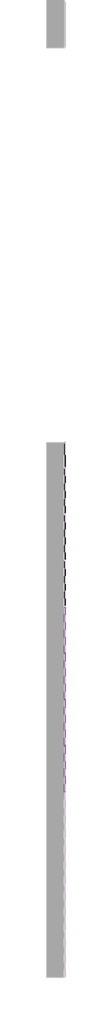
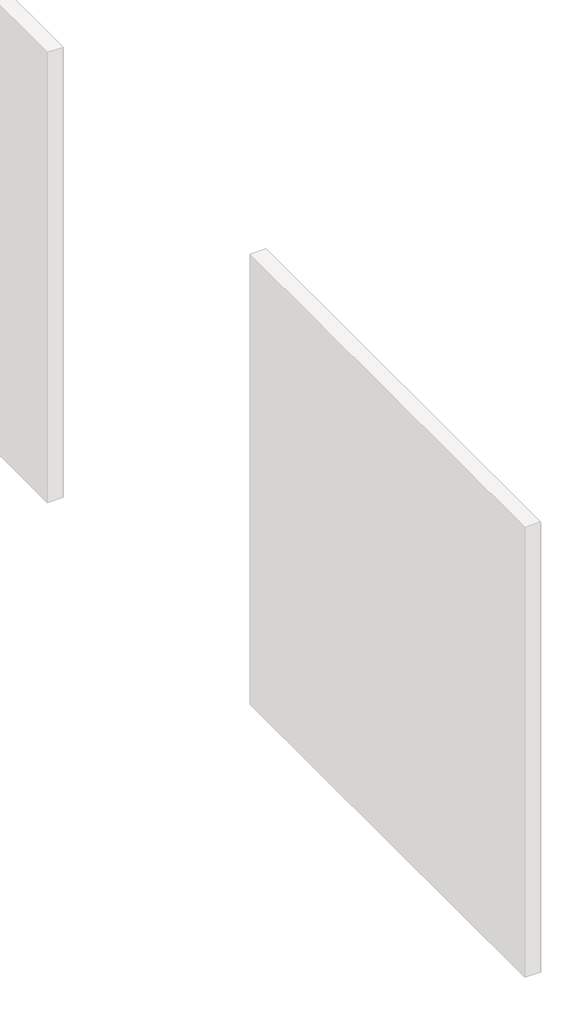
# One storey, part 35 of 45: 147 proxies.
"""IFC4 building model written with IfcOpenShell, lengths in millimetres."""

from ifc_helpers import new_model, si_unit, origin, place, context, project, spatial, transform, mapped, element, save
from components import generic_models_ab0f2c30, generic_models_8360c89e

model = new_model("IFC4")

# Units and contexts
model_context = context("Model", 3, world=origin())
ifc_project = project(units=[si_unit("LENGTHUNIT", "METRE", prefix="MILLI")], contexts=[model_context])

# Site, building, storey
site = spatial("IfcSite", under=ifc_project)
building = spatial("IfcBuilding", under=site)
storey = spatial("IfcBuildingStorey", under=building, Name="PORTOBELLO - SHOWROOM", Elevation=0.0)

# Proxies
placement = place(None, origin())
generic_models_shape = generic_models_ab0f2c30(model_context)
element("IfcBuildingElementProxy", 1, Name="PBSHOP - HORIZONTES TULUM 6,5X23 : TULUM AGAVE", ObjectType="PBSHOP - HORIZONTES TULUM 6,5X23 : TULUM AGAVE", at=placement, inside=storey, context=model_context, shape_type="MappedRepresentation", body=[
    mapped(generic_models_shape, transform((66511.8826867, 17058.0588567, 34.5), x_axis=(0.0, 0.0, 1.0), y_axis=(0.0, -1.0, 0.0), z_axis=(1.0, 0.0, 0.0))),
])
element("IfcBuildingElementProxy", 2, Name="PBSHOP - HORIZONTES TULUM 6,5X23 : TULUM AGAVE", ObjectType="PBSHOP - HORIZONTES TULUM 6,5X23 : TULUM AGAVE", at=placement, inside=storey, context=model_context, shape_type="MappedRepresentation", body=[
    mapped(generic_models_shape, transform((66511.8826867, 17292.0588567, 34.5), x_axis=(0.0, 0.0, 1.0), y_axis=(0.0, -1.0, 0.0), z_axis=(1.0, 0.0, 0.0))),
])
element("IfcBuildingElementProxy", 3, Name="PBSHOP - HORIZONTES TULUM 6,5X23 : TULUM AGAVE", ObjectType="PBSHOP - HORIZONTES TULUM 6,5X23 : TULUM AGAVE", at=placement, inside=storey, context=model_context, shape_type="MappedRepresentation", body=[
    mapped(generic_models_shape, transform((66511.8826867, 17526.0588567, 34.5), x_axis=(0.0, 0.0, 1.0), y_axis=(0.0, -1.0, 0.0), z_axis=(1.0, 0.0, 0.0))),
])
element("IfcBuildingElementProxy", 4, Name="PBSHOP - HORIZONTES TULUM 6,5X23 : TULUM AGAVE", ObjectType="PBSHOP - HORIZONTES TULUM 6,5X23 : TULUM AGAVE", at=placement, inside=storey, context=model_context, shape_type="MappedRepresentation", body=[
    mapped(generic_models_shape, transform((66511.8826867, 17058.0588567, 103.5), x_axis=(0.0, 0.0, 1.0), y_axis=(0.0, -1.0, 0.0), z_axis=(1.0, 0.0, 0.0))),
])
element("IfcBuildingElementProxy", 5, Name="PBSHOP - HORIZONTES TULUM 6,5X23 : TULUM AGAVE", ObjectType="PBSHOP - HORIZONTES TULUM 6,5X23 : TULUM AGAVE", at=placement, inside=storey, context=model_context, shape_type="MappedRepresentation", body=[
    mapped(generic_models_shape, transform((66511.8826867, 17292.0588567, 103.5), x_axis=(0.0, 0.0, 1.0), y_axis=(0.0, -1.0, 0.0), z_axis=(1.0, 0.0, 0.0))),
])
element("IfcBuildingElementProxy", 6, Name="PBSHOP - HORIZONTES TULUM 6,5X23 : TULUM AGAVE", ObjectType="PBSHOP - HORIZONTES TULUM 6,5X23 : TULUM AGAVE", at=placement, inside=storey, context=model_context, shape_type="MappedRepresentation", body=[
    mapped(generic_models_shape, transform((66511.8826867, 17526.0588567, 103.5), x_axis=(0.0, 0.0, 1.0), y_axis=(0.0, -1.0, 0.0), z_axis=(1.0, 0.0, 0.0))),
])
element("IfcBuildingElementProxy", 7, Name="PBSHOP - HORIZONTES TULUM 6,5X23 : TULUM AGAVE", ObjectType="PBSHOP - HORIZONTES TULUM 6,5X23 : TULUM AGAVE", at=placement, inside=storey, context=model_context, shape_type="MappedRepresentation", body=[
    mapped(generic_models_shape, transform((66511.8826867, 17058.0588567, 172.5), x_axis=(0.0, 0.0, 1.0), y_axis=(0.0, -1.0, 0.0), z_axis=(1.0, 0.0, 0.0))),
])
element("IfcBuildingElementProxy", 8, Name="PBSHOP - HORIZONTES TULUM 6,5X23 : TULUM AGAVE", ObjectType="PBSHOP - HORIZONTES TULUM 6,5X23 : TULUM AGAVE", at=placement, inside=storey, context=model_context, shape_type="MappedRepresentation", body=[
    mapped(generic_models_shape, transform((66511.8826867, 17292.0588567, 172.5), x_axis=(0.0, 0.0, 1.0), y_axis=(0.0, -1.0, 0.0), z_axis=(1.0, 0.0, 0.0))),
])
element("IfcBuildingElementProxy", 9, Name="PBSHOP - HORIZONTES TULUM 6,5X23 : TULUM AGAVE", ObjectType="PBSHOP - HORIZONTES TULUM 6,5X23 : TULUM AGAVE", at=placement, inside=storey, context=model_context, shape_type="MappedRepresentation", body=[
    mapped(generic_models_shape, transform((66511.8826867, 17526.0588567, 172.5), x_axis=(0.0, 0.0, 1.0), y_axis=(0.0, -1.0, 0.0), z_axis=(1.0, 0.0, 0.0))),
])
element("IfcBuildingElementProxy", 10, Name="PBSHOP - HORIZONTES TULUM 6,5X23 : TULUM AGAVE", ObjectType="PBSHOP - HORIZONTES TULUM 6,5X23 : TULUM AGAVE", at=placement, inside=storey, context=model_context, shape_type="MappedRepresentation", body=[
    mapped(generic_models_shape, transform((66511.8826867, 17058.0588567, 241.5), x_axis=(0.0, 0.0, 1.0), y_axis=(0.0, -1.0, 0.0), z_axis=(1.0, 0.0, 0.0))),
])
element("IfcBuildingElementProxy", 11, Name="PBSHOP - HORIZONTES TULUM 6,5X23 : TULUM AGAVE", ObjectType="PBSHOP - HORIZONTES TULUM 6,5X23 : TULUM AGAVE", at=placement, inside=storey, context=model_context, shape_type="MappedRepresentation", body=[
    mapped(generic_models_shape, transform((66511.8826867, 17292.0588567, 241.5), x_axis=(0.0, 0.0, 1.0), y_axis=(0.0, -1.0, 0.0), z_axis=(1.0, 0.0, 0.0))),
])
element("IfcBuildingElementProxy", 12, Name="PBSHOP - HORIZONTES TULUM 6,5X23 : TULUM AGAVE", ObjectType="PBSHOP - HORIZONTES TULUM 6,5X23 : TULUM AGAVE", at=placement, inside=storey, context=model_context, shape_type="MappedRepresentation", body=[
    mapped(generic_models_shape, transform((66511.8826867, 17526.0588567, 241.5), x_axis=(0.0, 0.0, 1.0), y_axis=(0.0, -1.0, 0.0), z_axis=(1.0, 0.0, 0.0))),
])
element("IfcBuildingElementProxy", 13, Name="PBSHOP - HORIZONTES TULUM 6,5X23 : TULUM AGAVE", ObjectType="PBSHOP - HORIZONTES TULUM 6,5X23 : TULUM AGAVE", at=placement, inside=storey, context=model_context, shape_type="MappedRepresentation", body=[
    mapped(generic_models_shape, transform((66511.8826867, 17058.0588567, 310.5), x_axis=(0.0, 0.0, 1.0), y_axis=(0.0, -1.0, 0.0), z_axis=(1.0, 0.0, 0.0))),
])
element("IfcBuildingElementProxy", 14, Name="PBSHOP - HORIZONTES TULUM 6,5X23 : TULUM AGAVE", ObjectType="PBSHOP - HORIZONTES TULUM 6,5X23 : TULUM AGAVE", at=placement, inside=storey, context=model_context, shape_type="MappedRepresentation", body=[
    mapped(generic_models_shape, transform((66511.8826867, 17292.0588567, 310.5), x_axis=(0.0, 0.0, 1.0), y_axis=(0.0, -1.0, 0.0), z_axis=(1.0, 0.0, 0.0))),
])
element("IfcBuildingElementProxy", 15, Name="PBSHOP - HORIZONTES TULUM 6,5X23 : TULUM AGAVE", ObjectType="PBSHOP - HORIZONTES TULUM 6,5X23 : TULUM AGAVE", at=placement, inside=storey, context=model_context, shape_type="MappedRepresentation", body=[
    mapped(generic_models_shape, transform((66511.8826867, 17526.0588567, 310.5), x_axis=(0.0, 0.0, 1.0), y_axis=(0.0, -1.0, 0.0), z_axis=(1.0, 0.0, 0.0))),
])
element("IfcBuildingElementProxy", 16, Name="PBSHOP - HORIZONTES TULUM 6,5X23 : TULUM AGAVE", ObjectType="PBSHOP - HORIZONTES TULUM 6,5X23 : TULUM AGAVE", at=placement, inside=storey, context=model_context, shape_type="MappedRepresentation", body=[
    mapped(generic_models_shape, transform((66511.8826867, 17058.0588567, 379.5), x_axis=(0.0, 0.0, 1.0), y_axis=(0.0, -1.0, 0.0), z_axis=(1.0, 0.0, 0.0))),
])
element("IfcBuildingElementProxy", 17, Name="PBSHOP - HORIZONTES TULUM 6,5X23 : TULUM AGAVE", ObjectType="PBSHOP - HORIZONTES TULUM 6,5X23 : TULUM AGAVE", at=placement, inside=storey, context=model_context, shape_type="MappedRepresentation", body=[
    mapped(generic_models_shape, transform((66511.8826867, 17292.0588567, 379.5), x_axis=(0.0, 0.0, 1.0), y_axis=(0.0, -1.0, 0.0), z_axis=(1.0, 0.0, 0.0))),
])
element("IfcBuildingElementProxy", 18, Name="PBSHOP - HORIZONTES TULUM 6,5X23 : TULUM AGAVE", ObjectType="PBSHOP - HORIZONTES TULUM 6,5X23 : TULUM AGAVE", at=placement, inside=storey, context=model_context, shape_type="MappedRepresentation", body=[
    mapped(generic_models_shape, transform((66511.8826867, 17526.0588567, 379.5), x_axis=(0.0, 0.0, 1.0), y_axis=(0.0, -1.0, 0.0), z_axis=(1.0, 0.0, 0.0))),
])
element("IfcBuildingElementProxy", 19, Name="PBSHOP - HORIZONTES TULUM 6,5X23 : TULUM AGAVE", ObjectType="PBSHOP - HORIZONTES TULUM 6,5X23 : TULUM AGAVE", at=placement, inside=storey, context=model_context, shape_type="MappedRepresentation", body=[
    mapped(generic_models_shape, transform((66511.8826867, 17058.0588567, 448.5), x_axis=(0.0, 0.0, 1.0), y_axis=(0.0, -1.0, 0.0), z_axis=(1.0, 0.0, 0.0))),
])
element("IfcBuildingElementProxy", 20, Name="PBSHOP - HORIZONTES TULUM 6,5X23 : TULUM AGAVE", ObjectType="PBSHOP - HORIZONTES TULUM 6,5X23 : TULUM AGAVE", at=placement, inside=storey, context=model_context, shape_type="MappedRepresentation", body=[
    mapped(generic_models_shape, transform((66511.8826867, 17292.0588567, 448.5), x_axis=(0.0, 0.0, 1.0), y_axis=(0.0, -1.0, 0.0), z_axis=(1.0, 0.0, 0.0))),
])
element("IfcBuildingElementProxy", 21, Name="PBSHOP - HORIZONTES TULUM 6,5X23 : TULUM AGAVE", ObjectType="PBSHOP - HORIZONTES TULUM 6,5X23 : TULUM AGAVE", at=placement, inside=storey, context=model_context, shape_type="MappedRepresentation", body=[
    mapped(generic_models_shape, transform((66511.8826867, 17526.0588567, 448.5), x_axis=(0.0, 0.0, 1.0), y_axis=(0.0, -1.0, 0.0), z_axis=(1.0, 0.0, 0.0))),
])
element("IfcBuildingElementProxy", 22, Name="PBSHOP - HORIZONTES TULUM 6,5X23 : TULUM AGAVE", ObjectType="PBSHOP - HORIZONTES TULUM 6,5X23 : TULUM AGAVE", at=placement, inside=storey, context=model_context, shape_type="MappedRepresentation", body=[
    mapped(generic_models_shape, transform((66511.8826867, 17058.0588567, 517.5), x_axis=(0.0, 0.0, 1.0), y_axis=(0.0, -1.0, 0.0), z_axis=(1.0, 0.0, 0.0))),
])
element("IfcBuildingElementProxy", 23, Name="PBSHOP - HORIZONTES TULUM 6,5X23 : TULUM AGAVE", ObjectType="PBSHOP - HORIZONTES TULUM 6,5X23 : TULUM AGAVE", at=placement, inside=storey, context=model_context, shape_type="MappedRepresentation", body=[
    mapped(generic_models_shape, transform((66511.8826867, 17292.0588567, 517.5), x_axis=(0.0, 0.0, 1.0), y_axis=(0.0, -1.0, 0.0), z_axis=(1.0, 0.0, 0.0))),
])
element("IfcBuildingElementProxy", 24, Name="PBSHOP - HORIZONTES TULUM 6,5X23 : TULUM AGAVE", ObjectType="PBSHOP - HORIZONTES TULUM 6,5X23 : TULUM AGAVE", at=placement, inside=storey, context=model_context, shape_type="MappedRepresentation", body=[
    mapped(generic_models_shape, transform((66511.8826867, 17526.0588567, 517.5), x_axis=(0.0, 0.0, 1.0), y_axis=(0.0, -1.0, 0.0), z_axis=(1.0, 0.0, 0.0))),
])
element("IfcBuildingElementProxy", 25, Name="PBSHOP - HORIZONTES TULUM 6,5X23 : TULUM AGAVE", ObjectType="PBSHOP - HORIZONTES TULUM 6,5X23 : TULUM AGAVE", at=placement, inside=storey, context=model_context, shape_type="MappedRepresentation", body=[
    mapped(generic_models_shape, transform((66511.8826867, 17058.0588567, 586.5), x_axis=(0.0, 0.0, 1.0), y_axis=(0.0, -1.0, 0.0), z_axis=(1.0, 0.0, 0.0))),
])
element("IfcBuildingElementProxy", 26, Name="PBSHOP - HORIZONTES TULUM 6,5X23 : TULUM AGAVE", ObjectType="PBSHOP - HORIZONTES TULUM 6,5X23 : TULUM AGAVE", at=placement, inside=storey, context=model_context, shape_type="MappedRepresentation", body=[
    mapped(generic_models_shape, transform((66511.8826867, 17292.0588567, 586.5), x_axis=(0.0, 0.0, 1.0), y_axis=(0.0, -1.0, 0.0), z_axis=(1.0, 0.0, 0.0))),
])
element("IfcBuildingElementProxy", 27, Name="PBSHOP - HORIZONTES TULUM 6,5X23 : TULUM AGAVE", ObjectType="PBSHOP - HORIZONTES TULUM 6,5X23 : TULUM AGAVE", at=placement, inside=storey, context=model_context, shape_type="MappedRepresentation", body=[
    mapped(generic_models_shape, transform((66511.8826867, 17526.0588567, 586.5), x_axis=(0.0, 0.0, 1.0), y_axis=(0.0, -1.0, 0.0), z_axis=(1.0, 0.0, 0.0))),
])
element("IfcBuildingElementProxy", 28, Name="PBSHOP - HORIZONTES TULUM 6,5X23 : TULUM AGAVE", ObjectType="PBSHOP - HORIZONTES TULUM 6,5X23 : TULUM AGAVE", at=placement, inside=storey, context=model_context, shape_type="MappedRepresentation", body=[
    mapped(generic_models_shape, transform((66511.8826867, 17058.0588567, 655.5), x_axis=(0.0, 0.0, 1.0), y_axis=(0.0, -1.0, 0.0), z_axis=(1.0, 0.0, 0.0))),
])
element("IfcBuildingElementProxy", 29, Name="PBSHOP - HORIZONTES TULUM 6,5X23 : TULUM AGAVE", ObjectType="PBSHOP - HORIZONTES TULUM 6,5X23 : TULUM AGAVE", at=placement, inside=storey, context=model_context, shape_type="MappedRepresentation", body=[
    mapped(generic_models_shape, transform((66511.8826867, 17292.0588567, 655.5), x_axis=(0.0, 0.0, 1.0), y_axis=(0.0, -1.0, 0.0), z_axis=(1.0, 0.0, 0.0))),
])
element("IfcBuildingElementProxy", 30, Name="PBSHOP - HORIZONTES TULUM 6,5X23 : TULUM AGAVE", ObjectType="PBSHOP - HORIZONTES TULUM 6,5X23 : TULUM AGAVE", at=placement, inside=storey, context=model_context, shape_type="MappedRepresentation", body=[
    mapped(generic_models_shape, transform((66511.8826867, 17526.0588567, 655.5), x_axis=(0.0, 0.0, 1.0), y_axis=(0.0, -1.0, 0.0), z_axis=(1.0, 0.0, 0.0))),
])
element("IfcBuildingElementProxy", 31, Name="PBSHOP - HORIZONTES TULUM 6,5X23 : TULUM AGAVE", ObjectType="PBSHOP - HORIZONTES TULUM 6,5X23 : TULUM AGAVE", at=placement, inside=storey, context=model_context, shape_type="MappedRepresentation", body=[
    mapped(generic_models_shape, transform((66511.8826867, 17058.0588567, 724.5), x_axis=(0.0, 0.0, 1.0), y_axis=(0.0, -1.0, 0.0), z_axis=(1.0, 0.0, 0.0))),
])
element("IfcBuildingElementProxy", 32, Name="PBSHOP - HORIZONTES TULUM 6,5X23 : TULUM AGAVE", ObjectType="PBSHOP - HORIZONTES TULUM 6,5X23 : TULUM AGAVE", at=placement, inside=storey, context=model_context, shape_type="MappedRepresentation", body=[
    mapped(generic_models_shape, transform((66511.8826867, 17292.0588567, 724.5), x_axis=(0.0, 0.0, 1.0), y_axis=(0.0, -1.0, 0.0), z_axis=(1.0, 0.0, 0.0))),
])
element("IfcBuildingElementProxy", 33, Name="PBSHOP - HORIZONTES TULUM 6,5X23 : TULUM AGAVE", ObjectType="PBSHOP - HORIZONTES TULUM 6,5X23 : TULUM AGAVE", at=placement, inside=storey, context=model_context, shape_type="MappedRepresentation", body=[
    mapped(generic_models_shape, transform((66511.8826867, 17526.0588567, 724.5), x_axis=(0.0, 0.0, 1.0), y_axis=(0.0, -1.0, 0.0), z_axis=(1.0, 0.0, 0.0))),
])
element("IfcBuildingElementProxy", 34, Name="PBSHOP - HORIZONTES TULUM 6,5X23 : TULUM AGAVE", ObjectType="PBSHOP - HORIZONTES TULUM 6,5X23 : TULUM AGAVE", at=placement, inside=storey, context=model_context, shape_type="MappedRepresentation", body=[
    mapped(generic_models_shape, transform((66511.8826867, 17058.0588567, 793.5), x_axis=(0.0, 0.0, 1.0), y_axis=(0.0, -1.0, 0.0), z_axis=(1.0, 0.0, 0.0))),
])
element("IfcBuildingElementProxy", 35, Name="PBSHOP - HORIZONTES TULUM 6,5X23 : TULUM AGAVE", ObjectType="PBSHOP - HORIZONTES TULUM 6,5X23 : TULUM AGAVE", at=placement, inside=storey, context=model_context, shape_type="MappedRepresentation", body=[
    mapped(generic_models_shape, transform((66511.8826867, 17292.0588567, 793.5), x_axis=(0.0, 0.0, 1.0), y_axis=(0.0, -1.0, 0.0), z_axis=(1.0, 0.0, 0.0))),
])
element("IfcBuildingElementProxy", 36, Name="PBSHOP - HORIZONTES TULUM 6,5X23 : TULUM AGAVE", ObjectType="PBSHOP - HORIZONTES TULUM 6,5X23 : TULUM AGAVE", at=placement, inside=storey, context=model_context, shape_type="MappedRepresentation", body=[
    mapped(generic_models_shape, transform((66511.8826867, 17526.0588567, 793.5), x_axis=(0.0, 0.0, 1.0), y_axis=(0.0, -1.0, 0.0), z_axis=(1.0, 0.0, 0.0))),
])
element("IfcBuildingElementProxy", 37, Name="PBSHOP - HORIZONTES TULUM 6,5X23 : TULUM AGAVE", ObjectType="PBSHOP - HORIZONTES TULUM 6,5X23 : TULUM AGAVE", at=placement, inside=storey, context=model_context, shape_type="MappedRepresentation", body=[
    mapped(generic_models_shape, transform((66511.8826867, 17058.0588567, 862.5), x_axis=(0.0, 0.0, 1.0), y_axis=(0.0, -1.0, 0.0), z_axis=(1.0, 0.0, 0.0))),
])
element("IfcBuildingElementProxy", 38, Name="PBSHOP - HORIZONTES TULUM 6,5X23 : TULUM AGAVE", ObjectType="PBSHOP - HORIZONTES TULUM 6,5X23 : TULUM AGAVE", at=placement, inside=storey, context=model_context, shape_type="MappedRepresentation", body=[
    mapped(generic_models_shape, transform((66511.8826867, 17292.0588567, 862.5), x_axis=(0.0, 0.0, 1.0), y_axis=(0.0, -1.0, 0.0), z_axis=(1.0, 0.0, 0.0))),
])
element("IfcBuildingElementProxy", 39, Name="PBSHOP - HORIZONTES TULUM 6,5X23 : TULUM AGAVE", ObjectType="PBSHOP - HORIZONTES TULUM 6,5X23 : TULUM AGAVE", at=placement, inside=storey, context=model_context, shape_type="MappedRepresentation", body=[
    mapped(generic_models_shape, transform((66511.8826867, 17526.0588567, 862.5), x_axis=(0.0, 0.0, 1.0), y_axis=(0.0, -1.0, 0.0), z_axis=(1.0, 0.0, 0.0))),
])
element("IfcBuildingElementProxy", 40, Name="PBSHOP - HORIZONTES TULUM 6,5X23 : TULUM AGAVE", ObjectType="PBSHOP - HORIZONTES TULUM 6,5X23 : TULUM AGAVE", at=placement, inside=storey, context=model_context, shape_type="MappedRepresentation", body=[
    mapped(generic_models_shape, transform((66511.8826867, 17058.0588567, 931.5), x_axis=(0.0, 0.0, 1.0), y_axis=(0.0, -1.0, 0.0), z_axis=(1.0, 0.0, 0.0))),
])
element("IfcBuildingElementProxy", 41, Name="PBSHOP - HORIZONTES TULUM 6,5X23 : TULUM AGAVE", ObjectType="PBSHOP - HORIZONTES TULUM 6,5X23 : TULUM AGAVE", at=placement, inside=storey, context=model_context, shape_type="MappedRepresentation", body=[
    mapped(generic_models_shape, transform((66511.8826867, 17292.0588567, 931.5), x_axis=(0.0, 0.0, 1.0), y_axis=(0.0, -1.0, 0.0), z_axis=(1.0, 0.0, 0.0))),
])
element("IfcBuildingElementProxy", 42, Name="PBSHOP - HORIZONTES TULUM 6,5X23 : TULUM AGAVE", ObjectType="PBSHOP - HORIZONTES TULUM 6,5X23 : TULUM AGAVE", at=placement, inside=storey, context=model_context, shape_type="MappedRepresentation", body=[
    mapped(generic_models_shape, transform((66511.8826867, 17526.0588567, 931.5), x_axis=(0.0, 0.0, 1.0), y_axis=(0.0, -1.0, 0.0), z_axis=(1.0, 0.0, 0.0))),
])
element("IfcBuildingElementProxy", 43, Name="PBSHOP - HORIZONTES TULUM 6,5X23 : TULUM AGAVE", ObjectType="PBSHOP - HORIZONTES TULUM 6,5X23 : TULUM AGAVE", at=placement, inside=storey, context=model_context, shape_type="MappedRepresentation", body=[
    mapped(generic_models_shape, transform((66511.8826867, 17058.0588567, 1000.5), x_axis=(0.0, 0.0, 1.0), y_axis=(0.0, -1.0, 0.0), z_axis=(1.0, 0.0, 0.0))),
])
element("IfcBuildingElementProxy", 44, Name="PBSHOP - HORIZONTES TULUM 6,5X23 : TULUM AGAVE", ObjectType="PBSHOP - HORIZONTES TULUM 6,5X23 : TULUM AGAVE", at=placement, inside=storey, context=model_context, shape_type="MappedRepresentation", body=[
    mapped(generic_models_shape, transform((66511.8826867, 17292.0588567, 1000.5), x_axis=(0.0, 0.0, 1.0), y_axis=(0.0, -1.0, 0.0), z_axis=(1.0, 0.0, 0.0))),
])
element("IfcBuildingElementProxy", 45, Name="PBSHOP - HORIZONTES TULUM 6,5X23 : TULUM AGAVE", ObjectType="PBSHOP - HORIZONTES TULUM 6,5X23 : TULUM AGAVE", at=placement, inside=storey, context=model_context, shape_type="MappedRepresentation", body=[
    mapped(generic_models_shape, transform((66511.8826867, 17526.0588567, 1000.5), x_axis=(0.0, 0.0, 1.0), y_axis=(0.0, -1.0, 0.0), z_axis=(1.0, 0.0, 0.0))),
])
element("IfcBuildingElementProxy", 46, Name="PBSHOP - HORIZONTES TULUM 6,5X23 : TULUM AGAVE", ObjectType="PBSHOP - HORIZONTES TULUM 6,5X23 : TULUM AGAVE", at=placement, inside=storey, context=model_context, shape_type="MappedRepresentation", body=[
    mapped(generic_models_shape, transform((66511.8826867, 17058.0588567, 1069.5), x_axis=(0.0, 0.0, 1.0), y_axis=(0.0, -1.0, 0.0), z_axis=(1.0, 0.0, 0.0))),
])
element("IfcBuildingElementProxy", 47, Name="PBSHOP - HORIZONTES TULUM 6,5X23 : TULUM AGAVE", ObjectType="PBSHOP - HORIZONTES TULUM 6,5X23 : TULUM AGAVE", at=placement, inside=storey, context=model_context, shape_type="MappedRepresentation", body=[
    mapped(generic_models_shape, transform((66511.8826867, 17292.0588567, 1069.5), x_axis=(0.0, 0.0, 1.0), y_axis=(0.0, -1.0, 0.0), z_axis=(1.0, 0.0, 0.0))),
])
element("IfcBuildingElementProxy", 48, Name="PBSHOP - HORIZONTES TULUM 6,5X23 : TULUM AGAVE", ObjectType="PBSHOP - HORIZONTES TULUM 6,5X23 : TULUM AGAVE", at=placement, inside=storey, context=model_context, shape_type="MappedRepresentation", body=[
    mapped(generic_models_shape, transform((66511.8826867, 17526.0588567, 1069.5), x_axis=(0.0, 0.0, 1.0), y_axis=(0.0, -1.0, 0.0), z_axis=(1.0, 0.0, 0.0))),
])
element("IfcBuildingElementProxy", 49, Name="PBSHOP - HORIZONTES TULUM 6,5X23 : TULUM AGAVE", ObjectType="PBSHOP - HORIZONTES TULUM 6,5X23 : TULUM AGAVE", at=placement, inside=storey, context=model_context, shape_type="MappedRepresentation", body=[
    mapped(generic_models_shape, transform((66511.8826867, 17058.0588567, 1138.5), x_axis=(0.0, 0.0, 1.0), y_axis=(0.0, -1.0, 0.0), z_axis=(1.0, 0.0, 0.0))),
])
element("IfcBuildingElementProxy", 50, Name="PBSHOP - HORIZONTES TULUM 6,5X23 : TULUM AGAVE", ObjectType="PBSHOP - HORIZONTES TULUM 6,5X23 : TULUM AGAVE", at=placement, inside=storey, context=model_context, shape_type="MappedRepresentation", body=[
    mapped(generic_models_shape, transform((66511.8826867, 17292.0588567, 1138.5), x_axis=(0.0, 0.0, 1.0), y_axis=(0.0, -1.0, 0.0), z_axis=(1.0, 0.0, 0.0))),
])
element("IfcBuildingElementProxy", 51, Name="PBSHOP - HORIZONTES TULUM 6,5X23 : TULUM AGAVE", ObjectType="PBSHOP - HORIZONTES TULUM 6,5X23 : TULUM AGAVE", at=placement, inside=storey, context=model_context, shape_type="MappedRepresentation", body=[
    mapped(generic_models_shape, transform((66511.8826867, 17526.0588567, 1138.5), x_axis=(0.0, 0.0, 1.0), y_axis=(0.0, -1.0, 0.0), z_axis=(1.0, 0.0, 0.0))),
])
element("IfcBuildingElementProxy", 52, Name="PBSHOP - HORIZONTES TULUM 6,5X23 : TULUM AGAVE", ObjectType="PBSHOP - HORIZONTES TULUM 6,5X23 : TULUM AGAVE", at=placement, inside=storey, context=model_context, shape_type="MappedRepresentation", body=[
    mapped(generic_models_shape, transform((66511.8826867, 17058.0588567, 1207.5), x_axis=(0.0, 0.0, 1.0), y_axis=(0.0, -1.0, 0.0), z_axis=(1.0, 0.0, 0.0))),
])
element("IfcBuildingElementProxy", 53, Name="PBSHOP - HORIZONTES TULUM 6,5X23 : TULUM AGAVE", ObjectType="PBSHOP - HORIZONTES TULUM 6,5X23 : TULUM AGAVE", at=placement, inside=storey, context=model_context, shape_type="MappedRepresentation", body=[
    mapped(generic_models_shape, transform((66511.8826867, 17292.0588567, 1207.5), x_axis=(0.0, 0.0, 1.0), y_axis=(0.0, -1.0, 0.0), z_axis=(1.0, 0.0, 0.0))),
])
element("IfcBuildingElementProxy", 54, Name="PBSHOP - HORIZONTES TULUM 6,5X23 : TULUM AGAVE", ObjectType="PBSHOP - HORIZONTES TULUM 6,5X23 : TULUM AGAVE", at=placement, inside=storey, context=model_context, shape_type="MappedRepresentation", body=[
    mapped(generic_models_shape, transform((66511.8826867, 17526.0588567, 1207.5), x_axis=(0.0, 0.0, 1.0), y_axis=(0.0, -1.0, 0.0), z_axis=(1.0, 0.0, 0.0))),
])
element("IfcBuildingElementProxy", 55, Name="PBSHOP - HORIZONTES TULUM 6,5X23 : TULUM AGAVE", ObjectType="PBSHOP - HORIZONTES TULUM 6,5X23 : TULUM AGAVE", at=placement, inside=storey, context=model_context, shape_type="MappedRepresentation", body=[
    mapped(generic_models_shape, transform((66511.8826867, 17058.0588567, 1276.5), x_axis=(0.0, 0.0, 1.0), y_axis=(0.0, -1.0, 0.0), z_axis=(1.0, 0.0, 0.0))),
])
element("IfcBuildingElementProxy", 56, Name="PBSHOP - HORIZONTES TULUM 6,5X23 : TULUM AGAVE", ObjectType="PBSHOP - HORIZONTES TULUM 6,5X23 : TULUM AGAVE", at=placement, inside=storey, context=model_context, shape_type="MappedRepresentation", body=[
    mapped(generic_models_shape, transform((66511.8826867, 17292.0588567, 1276.5), x_axis=(0.0, 0.0, 1.0), y_axis=(0.0, -1.0, 0.0), z_axis=(1.0, 0.0, 0.0))),
])
element("IfcBuildingElementProxy", 57, Name="PBSHOP - HORIZONTES TULUM 6,5X23 : TULUM AGAVE", ObjectType="PBSHOP - HORIZONTES TULUM 6,5X23 : TULUM AGAVE", at=placement, inside=storey, context=model_context, shape_type="MappedRepresentation", body=[
    mapped(generic_models_shape, transform((66511.8826867, 17526.0588567, 1276.5), x_axis=(0.0, 0.0, 1.0), y_axis=(0.0, -1.0, 0.0), z_axis=(1.0, 0.0, 0.0))),
])
element("IfcBuildingElementProxy", 58, Name="PBSHOP - HORIZONTES TULUM 6,5X23 : TULUM AGAVE", ObjectType="PBSHOP - HORIZONTES TULUM 6,5X23 : TULUM AGAVE", at=placement, inside=storey, context=model_context, shape_type="MappedRepresentation", body=[
    mapped(generic_models_shape, transform((66511.8826867, 17058.0588567, 1345.5), x_axis=(0.0, 0.0, 1.0), y_axis=(0.0, -1.0, 0.0), z_axis=(1.0, 0.0, 0.0))),
])
element("IfcBuildingElementProxy", 59, Name="PBSHOP - HORIZONTES TULUM 6,5X23 : TULUM AGAVE", ObjectType="PBSHOP - HORIZONTES TULUM 6,5X23 : TULUM AGAVE", at=placement, inside=storey, context=model_context, shape_type="MappedRepresentation", body=[
    mapped(generic_models_shape, transform((66511.8826867, 17292.0588567, 1345.5), x_axis=(0.0, 0.0, 1.0), y_axis=(0.0, -1.0, 0.0), z_axis=(1.0, 0.0, 0.0))),
])
element("IfcBuildingElementProxy", 60, Name="PBSHOP - HORIZONTES TULUM 6,5X23 : TULUM AGAVE", ObjectType="PBSHOP - HORIZONTES TULUM 6,5X23 : TULUM AGAVE", at=placement, inside=storey, context=model_context, shape_type="MappedRepresentation", body=[
    mapped(generic_models_shape, transform((66511.8826867, 17526.0588567, 1345.5), x_axis=(0.0, 0.0, 1.0), y_axis=(0.0, -1.0, 0.0), z_axis=(1.0, 0.0, 0.0))),
])
element("IfcBuildingElementProxy", 61, Name="PBSHOP - HORIZONTES TULUM 6,5X23 : TULUM AGAVE", ObjectType="PBSHOP - HORIZONTES TULUM 6,5X23 : TULUM AGAVE", at=placement, inside=storey, context=model_context, shape_type="MappedRepresentation", body=[
    mapped(generic_models_shape, transform((66511.8826867, 16356.0588567, 1552.5), x_axis=(0.0, 0.0, 1.0), y_axis=(0.0, -1.0, 0.0), z_axis=(1.0, 0.0, 0.0))),
])
element("IfcBuildingElementProxy", 62, Name="PBSHOP - HORIZONTES TULUM 6,5X23 : TULUM AGAVE", ObjectType="PBSHOP - HORIZONTES TULUM 6,5X23 : TULUM AGAVE", at=placement, inside=storey, context=model_context, shape_type="MappedRepresentation", body=[
    mapped(generic_models_shape, transform((66511.8826867, 16590.0588567, 1552.5), x_axis=(0.0, 0.0, 1.0), y_axis=(0.0, -1.0, 0.0), z_axis=(1.0, 0.0, 0.0))),
])
element("IfcBuildingElementProxy", 63, Name="PBSHOP - HORIZONTES TULUM 6,5X23 : TULUM AGAVE", ObjectType="PBSHOP - HORIZONTES TULUM 6,5X23 : TULUM AGAVE", at=placement, inside=storey, context=model_context, shape_type="MappedRepresentation", body=[
    mapped(generic_models_shape, transform((66511.8826867, 16824.0588567, 1552.5), x_axis=(0.0, 0.0, 1.0), y_axis=(0.0, -1.0, 0.0), z_axis=(1.0, 0.0, 0.0))),
])
element("IfcBuildingElementProxy", 64, Name="PBSHOP - HORIZONTES TULUM 6,5X23 : TULUM AGAVE", ObjectType="PBSHOP - HORIZONTES TULUM 6,5X23 : TULUM AGAVE", at=placement, inside=storey, context=model_context, shape_type="MappedRepresentation", body=[
    mapped(generic_models_shape, transform((66511.8826867, 16122.0588567, 1621.5), x_axis=(0.0, 0.0, 1.0), y_axis=(0.0, -1.0, 0.0), z_axis=(1.0, 0.0, 0.0))),
])
element("IfcBuildingElementProxy", 65, Name="PBSHOP - HORIZONTES TULUM 6,5X23 : TULUM AGAVE", ObjectType="PBSHOP - HORIZONTES TULUM 6,5X23 : TULUM AGAVE", at=placement, inside=storey, context=model_context, shape_type="MappedRepresentation", body=[
    mapped(generic_models_shape, transform((66511.8826867, 16356.0588567, 1621.5), x_axis=(0.0, 0.0, 1.0), y_axis=(0.0, -1.0, 0.0), z_axis=(1.0, 0.0, 0.0))),
])
element("IfcBuildingElementProxy", 66, Name="PBSHOP - HORIZONTES TULUM 6,5X23 : TULUM AGAVE", ObjectType="PBSHOP - HORIZONTES TULUM 6,5X23 : TULUM AGAVE", at=placement, inside=storey, context=model_context, shape_type="MappedRepresentation", body=[
    mapped(generic_models_shape, transform((66511.8826867, 16590.0588567, 1621.5), x_axis=(0.0, 0.0, 1.0), y_axis=(0.0, -1.0, 0.0), z_axis=(1.0, 0.0, 0.0))),
])
element("IfcBuildingElementProxy", 67, Name="PBSHOP - HORIZONTES TULUM 6,5X23 : TULUM AGAVE", ObjectType="PBSHOP - HORIZONTES TULUM 6,5X23 : TULUM AGAVE", at=placement, inside=storey, context=model_context, shape_type="MappedRepresentation", body=[
    mapped(generic_models_shape, transform((66511.8826867, 16824.0588567, 1621.5), x_axis=(0.0, 0.0, 1.0), y_axis=(0.0, -1.0, 0.0), z_axis=(1.0, 0.0, 0.0))),
])
element("IfcBuildingElementProxy", 68, Name="PBSHOP - HORIZONTES TULUM 6,5X23 : TULUM AGAVE", ObjectType="PBSHOP - HORIZONTES TULUM 6,5X23 : TULUM AGAVE", at=placement, inside=storey, context=model_context, shape_type="MappedRepresentation", body=[
    mapped(generic_models_shape, transform((66511.8826867, 16122.0588567, 1690.5), x_axis=(0.0, 0.0, 1.0), y_axis=(0.0, -1.0, 0.0), z_axis=(1.0, 0.0, 0.0))),
])
element("IfcBuildingElementProxy", 69, Name="PBSHOP - HORIZONTES TULUM 6,5X23 : TULUM AGAVE", ObjectType="PBSHOP - HORIZONTES TULUM 6,5X23 : TULUM AGAVE", at=placement, inside=storey, context=model_context, shape_type="MappedRepresentation", body=[
    mapped(generic_models_shape, transform((66511.8826867, 16356.0588567, 1690.5), x_axis=(0.0, 0.0, 1.0), y_axis=(0.0, -1.0, 0.0), z_axis=(1.0, 0.0, 0.0))),
])
element("IfcBuildingElementProxy", 70, Name="PBSHOP - HORIZONTES TULUM 6,5X23 : TULUM AGAVE", ObjectType="PBSHOP - HORIZONTES TULUM 6,5X23 : TULUM AGAVE", at=placement, inside=storey, context=model_context, shape_type="MappedRepresentation", body=[
    mapped(generic_models_shape, transform((66511.8826867, 16590.0588567, 1690.5), x_axis=(0.0, 0.0, 1.0), y_axis=(0.0, -1.0, 0.0), z_axis=(1.0, 0.0, 0.0))),
])
element("IfcBuildingElementProxy", 71, Name="PBSHOP - HORIZONTES TULUM 6,5X23 : TULUM AGAVE", ObjectType="PBSHOP - HORIZONTES TULUM 6,5X23 : TULUM AGAVE", at=placement, inside=storey, context=model_context, shape_type="MappedRepresentation", body=[
    mapped(generic_models_shape, transform((66511.8826867, 16824.0588567, 1690.5), x_axis=(0.0, 0.0, 1.0), y_axis=(0.0, -1.0, 0.0), z_axis=(1.0, 0.0, 0.0))),
])
element("IfcBuildingElementProxy", 72, Name="PBSHOP - HORIZONTES TULUM 6,5X23 : TULUM AGAVE", ObjectType="PBSHOP - HORIZONTES TULUM 6,5X23 : TULUM AGAVE", at=placement, inside=storey, context=model_context, shape_type="MappedRepresentation", body=[
    mapped(generic_models_shape, transform((66511.8826867, 16122.0588567, 1759.5), x_axis=(0.0, 0.0, 1.0), y_axis=(0.0, -1.0, 0.0), z_axis=(1.0, 0.0, 0.0))),
])
element("IfcBuildingElementProxy", 73, Name="PBSHOP - HORIZONTES TULUM 6,5X23 : TULUM AGAVE", ObjectType="PBSHOP - HORIZONTES TULUM 6,5X23 : TULUM AGAVE", at=placement, inside=storey, context=model_context, shape_type="MappedRepresentation", body=[
    mapped(generic_models_shape, transform((66511.8826867, 16356.0588567, 1759.5), x_axis=(0.0, 0.0, 1.0), y_axis=(0.0, -1.0, 0.0), z_axis=(1.0, 0.0, 0.0))),
])
element("IfcBuildingElementProxy", 74, Name="PBSHOP - HORIZONTES TULUM 6,5X23 : TULUM AGAVE", ObjectType="PBSHOP - HORIZONTES TULUM 6,5X23 : TULUM AGAVE", at=placement, inside=storey, context=model_context, shape_type="MappedRepresentation", body=[
    mapped(generic_models_shape, transform((66511.8826867, 16590.0588567, 1759.5), x_axis=(0.0, 0.0, 1.0), y_axis=(0.0, -1.0, 0.0), z_axis=(1.0, 0.0, 0.0))),
])
element("IfcBuildingElementProxy", 75, Name="PBSHOP - HORIZONTES TULUM 6,5X23 : TULUM AGAVE", ObjectType="PBSHOP - HORIZONTES TULUM 6,5X23 : TULUM AGAVE", at=placement, inside=storey, context=model_context, shape_type="MappedRepresentation", body=[
    mapped(generic_models_shape, transform((66511.8826867, 16824.0588567, 1759.5), x_axis=(0.0, 0.0, 1.0), y_axis=(0.0, -1.0, 0.0), z_axis=(1.0, 0.0, 0.0))),
])
element("IfcBuildingElementProxy", 76, Name="PBSHOP - HORIZONTES TULUM 6,5X23 : TULUM AGAVE", ObjectType="PBSHOP - HORIZONTES TULUM 6,5X23 : TULUM AGAVE", at=placement, inside=storey, context=model_context, shape_type="MappedRepresentation", body=[
    mapped(generic_models_shape, transform((66511.8826867, 16122.0588567, 1828.5), x_axis=(0.0, 0.0, 1.0), y_axis=(0.0, -1.0, 0.0), z_axis=(1.0, 0.0, 0.0))),
])
element("IfcBuildingElementProxy", 77, Name="PBSHOP - HORIZONTES TULUM 6,5X23 : TULUM AGAVE", ObjectType="PBSHOP - HORIZONTES TULUM 6,5X23 : TULUM AGAVE", at=placement, inside=storey, context=model_context, shape_type="MappedRepresentation", body=[
    mapped(generic_models_shape, transform((66511.8826867, 16356.0588567, 1828.5), x_axis=(0.0, 0.0, 1.0), y_axis=(0.0, -1.0, 0.0), z_axis=(1.0, 0.0, 0.0))),
])
element("IfcBuildingElementProxy", 78, Name="PBSHOP - HORIZONTES TULUM 6,5X23 : TULUM AGAVE", ObjectType="PBSHOP - HORIZONTES TULUM 6,5X23 : TULUM AGAVE", at=placement, inside=storey, context=model_context, shape_type="MappedRepresentation", body=[
    mapped(generic_models_shape, transform((66511.8826867, 16590.0588567, 1828.5), x_axis=(0.0, 0.0, 1.0), y_axis=(0.0, -1.0, 0.0), z_axis=(1.0, 0.0, 0.0))),
])
element("IfcBuildingElementProxy", 79, Name="PBSHOP - HORIZONTES TULUM 6,5X23 : TULUM AGAVE", ObjectType="PBSHOP - HORIZONTES TULUM 6,5X23 : TULUM AGAVE", at=placement, inside=storey, context=model_context, shape_type="MappedRepresentation", body=[
    mapped(generic_models_shape, transform((66511.8826867, 16824.0588567, 1828.5), x_axis=(0.0, 0.0, 1.0), y_axis=(0.0, -1.0, 0.0), z_axis=(1.0, 0.0, 0.0))),
])
element("IfcBuildingElementProxy", 80, Name="PBSHOP - HORIZONTES TULUM 6,5X23 : TULUM AGAVE", ObjectType="PBSHOP - HORIZONTES TULUM 6,5X23 : TULUM AGAVE", at=placement, inside=storey, context=model_context, shape_type="MappedRepresentation", body=[
    mapped(generic_models_shape, transform((66511.8826867, 16122.0588567, 1897.5), x_axis=(0.0, 0.0, 1.0), y_axis=(0.0, -1.0, 0.0), z_axis=(1.0, 0.0, 0.0))),
])
element("IfcBuildingElementProxy", 81, Name="PBSHOP - HORIZONTES TULUM 6,5X23 : TULUM AGAVE", ObjectType="PBSHOP - HORIZONTES TULUM 6,5X23 : TULUM AGAVE", at=placement, inside=storey, context=model_context, shape_type="MappedRepresentation", body=[
    mapped(generic_models_shape, transform((66511.8826867, 16356.0588567, 1897.5), x_axis=(0.0, 0.0, 1.0), y_axis=(0.0, -1.0, 0.0), z_axis=(1.0, 0.0, 0.0))),
])
element("IfcBuildingElementProxy", 82, Name="PBSHOP - HORIZONTES TULUM 6,5X23 : TULUM AGAVE", ObjectType="PBSHOP - HORIZONTES TULUM 6,5X23 : TULUM AGAVE", at=placement, inside=storey, context=model_context, shape_type="MappedRepresentation", body=[
    mapped(generic_models_shape, transform((66511.8826867, 16590.0588567, 1897.5), x_axis=(0.0, 0.0, 1.0), y_axis=(0.0, -1.0, 0.0), z_axis=(1.0, 0.0, 0.0))),
])
element("IfcBuildingElementProxy", 83, Name="PBSHOP - HORIZONTES TULUM 6,5X23 : TULUM AGAVE", ObjectType="PBSHOP - HORIZONTES TULUM 6,5X23 : TULUM AGAVE", at=placement, inside=storey, context=model_context, shape_type="MappedRepresentation", body=[
    mapped(generic_models_shape, transform((66511.8826867, 16824.0588567, 1897.5), x_axis=(0.0, 0.0, 1.0), y_axis=(0.0, -1.0, 0.0), z_axis=(1.0, 0.0, 0.0))),
])
element("IfcBuildingElementProxy", 84, Name="PBSHOP - HORIZONTES TULUM 6,5X23 : TULUM AGAVE", ObjectType="PBSHOP - HORIZONTES TULUM 6,5X23 : TULUM AGAVE", at=placement, inside=storey, context=model_context, shape_type="MappedRepresentation", body=[
    mapped(generic_models_shape, transform((66511.8826867, 16122.0588567, 1966.5), x_axis=(0.0, 0.0, 1.0), y_axis=(0.0, -1.0, 0.0), z_axis=(1.0, 0.0, 0.0))),
])
element("IfcBuildingElementProxy", 85, Name="PBSHOP - HORIZONTES TULUM 6,5X23 : TULUM AGAVE", ObjectType="PBSHOP - HORIZONTES TULUM 6,5X23 : TULUM AGAVE", at=placement, inside=storey, context=model_context, shape_type="MappedRepresentation", body=[
    mapped(generic_models_shape, transform((66511.8826867, 16356.0588567, 1966.5), x_axis=(0.0, 0.0, 1.0), y_axis=(0.0, -1.0, 0.0), z_axis=(1.0, 0.0, 0.0))),
])
element("IfcBuildingElementProxy", 86, Name="PBSHOP - HORIZONTES TULUM 6,5X23 : TULUM AGAVE", ObjectType="PBSHOP - HORIZONTES TULUM 6,5X23 : TULUM AGAVE", at=placement, inside=storey, context=model_context, shape_type="MappedRepresentation", body=[
    mapped(generic_models_shape, transform((66511.8826867, 16590.0588567, 1966.5), x_axis=(0.0, 0.0, 1.0), y_axis=(0.0, -1.0, 0.0), z_axis=(1.0, 0.0, 0.0))),
])
element("IfcBuildingElementProxy", 87, Name="PBSHOP - HORIZONTES TULUM 6,5X23 : TULUM AGAVE", ObjectType="PBSHOP - HORIZONTES TULUM 6,5X23 : TULUM AGAVE", at=placement, inside=storey, context=model_context, shape_type="MappedRepresentation", body=[
    mapped(generic_models_shape, transform((66511.8826867, 16824.0588567, 1966.5), x_axis=(0.0, 0.0, 1.0), y_axis=(0.0, -1.0, 0.0), z_axis=(1.0, 0.0, 0.0))),
])
element("IfcBuildingElementProxy", 88, Name="PBSHOP - HORIZONTES TULUM 6,5X23 : TULUM AGAVE", ObjectType="PBSHOP - HORIZONTES TULUM 6,5X23 : TULUM AGAVE", at=placement, inside=storey, context=model_context, shape_type="MappedRepresentation", body=[
    mapped(generic_models_shape, transform((66511.8826867, 16122.0588567, 2035.5), x_axis=(0.0, 0.0, 1.0), y_axis=(0.0, -1.0, 0.0), z_axis=(1.0, 0.0, 0.0))),
])
element("IfcBuildingElementProxy", 89, Name="PBSHOP - HORIZONTES TULUM 6,5X23 : TULUM AGAVE", ObjectType="PBSHOP - HORIZONTES TULUM 6,5X23 : TULUM AGAVE", at=placement, inside=storey, context=model_context, shape_type="MappedRepresentation", body=[
    mapped(generic_models_shape, transform((66511.8826867, 16356.0588567, 2035.5), x_axis=(0.0, 0.0, 1.0), y_axis=(0.0, -1.0, 0.0), z_axis=(1.0, 0.0, 0.0))),
])
element("IfcBuildingElementProxy", 90, Name="PBSHOP - HORIZONTES TULUM 6,5X23 : TULUM AGAVE", ObjectType="PBSHOP - HORIZONTES TULUM 6,5X23 : TULUM AGAVE", at=placement, inside=storey, context=model_context, shape_type="MappedRepresentation", body=[
    mapped(generic_models_shape, transform((66511.8826867, 16590.0588567, 2035.5), x_axis=(0.0, 0.0, 1.0), y_axis=(0.0, -1.0, 0.0), z_axis=(1.0, 0.0, 0.0))),
])
element("IfcBuildingElementProxy", 91, Name="PBSHOP - HORIZONTES TULUM 6,5X23 : TULUM AGAVE", ObjectType="PBSHOP - HORIZONTES TULUM 6,5X23 : TULUM AGAVE", at=placement, inside=storey, context=model_context, shape_type="MappedRepresentation", body=[
    mapped(generic_models_shape, transform((66511.8826867, 16824.0588567, 2035.5), x_axis=(0.0, 0.0, 1.0), y_axis=(0.0, -1.0, 0.0), z_axis=(1.0, 0.0, 0.0))),
])
element("IfcBuildingElementProxy", 92, Name="PBSHOP - HORIZONTES TULUM 6,5X23 : TULUM AGAVE", ObjectType="PBSHOP - HORIZONTES TULUM 6,5X23 : TULUM AGAVE", at=placement, inside=storey, context=model_context, shape_type="MappedRepresentation", body=[
    mapped(generic_models_shape, transform((66511.8826867, 16122.0588567, 2104.5), x_axis=(0.0, 0.0, 1.0), y_axis=(0.0, -1.0, 0.0), z_axis=(1.0, 0.0, 0.0))),
])
element("IfcBuildingElementProxy", 93, Name="PBSHOP - HORIZONTES TULUM 6,5X23 : TULUM AGAVE", ObjectType="PBSHOP - HORIZONTES TULUM 6,5X23 : TULUM AGAVE", at=placement, inside=storey, context=model_context, shape_type="MappedRepresentation", body=[
    mapped(generic_models_shape, transform((66511.8826867, 16356.0588567, 2104.5), x_axis=(0.0, 0.0, 1.0), y_axis=(0.0, -1.0, 0.0), z_axis=(1.0, 0.0, 0.0))),
])
element("IfcBuildingElementProxy", 94, Name="PBSHOP - HORIZONTES TULUM 6,5X23 : TULUM AGAVE", ObjectType="PBSHOP - HORIZONTES TULUM 6,5X23 : TULUM AGAVE", at=placement, inside=storey, context=model_context, shape_type="MappedRepresentation", body=[
    mapped(generic_models_shape, transform((66511.8826867, 16590.0588567, 2104.5), x_axis=(0.0, 0.0, 1.0), y_axis=(0.0, -1.0, 0.0), z_axis=(1.0, 0.0, 0.0))),
])
element("IfcBuildingElementProxy", 95, Name="PBSHOP - HORIZONTES TULUM 6,5X23 : TULUM AGAVE", ObjectType="PBSHOP - HORIZONTES TULUM 6,5X23 : TULUM AGAVE", at=placement, inside=storey, context=model_context, shape_type="MappedRepresentation", body=[
    mapped(generic_models_shape, transform((66511.8826867, 16824.0588567, 2104.5), x_axis=(0.0, 0.0, 1.0), y_axis=(0.0, -1.0, 0.0), z_axis=(1.0, 0.0, 0.0))),
])
element("IfcBuildingElementProxy", 96, Name="PBSHOP - HORIZONTES TULUM 6,5X23 : TULUM AGAVE", ObjectType="PBSHOP - HORIZONTES TULUM 6,5X23 : TULUM AGAVE", at=placement, inside=storey, context=model_context, shape_type="MappedRepresentation", body=[
    mapped(generic_models_shape, transform((66511.8826867, 16122.0588567, 2173.5), x_axis=(0.0, 0.0, 1.0), y_axis=(0.0, -1.0, 0.0), z_axis=(1.0, 0.0, 0.0))),
])
element("IfcBuildingElementProxy", 97, Name="PBSHOP - HORIZONTES TULUM 6,5X23 : TULUM AGAVE", ObjectType="PBSHOP - HORIZONTES TULUM 6,5X23 : TULUM AGAVE", at=placement, inside=storey, context=model_context, shape_type="MappedRepresentation", body=[
    mapped(generic_models_shape, transform((66511.8826867, 16356.0588567, 2173.5), x_axis=(0.0, 0.0, 1.0), y_axis=(0.0, -1.0, 0.0), z_axis=(1.0, 0.0, 0.0))),
])
element("IfcBuildingElementProxy", 98, Name="PBSHOP - HORIZONTES TULUM 6,5X23 : TULUM AGAVE", ObjectType="PBSHOP - HORIZONTES TULUM 6,5X23 : TULUM AGAVE", at=placement, inside=storey, context=model_context, shape_type="MappedRepresentation", body=[
    mapped(generic_models_shape, transform((66511.8826867, 16590.0588567, 2173.5), x_axis=(0.0, 0.0, 1.0), y_axis=(0.0, -1.0, 0.0), z_axis=(1.0, 0.0, 0.0))),
])
element("IfcBuildingElementProxy", 99, Name="PBSHOP - HORIZONTES TULUM 6,5X23 : TULUM AGAVE", ObjectType="PBSHOP - HORIZONTES TULUM 6,5X23 : TULUM AGAVE", at=placement, inside=storey, context=model_context, shape_type="MappedRepresentation", body=[
    mapped(generic_models_shape, transform((66511.8826867, 16824.0588567, 2173.5), x_axis=(0.0, 0.0, 1.0), y_axis=(0.0, -1.0, 0.0), z_axis=(1.0, 0.0, 0.0))),
])
element("IfcBuildingElementProxy", 100, Name="PBSHOP - HORIZONTES TULUM 6,5X23 : TULUM AGAVE", ObjectType="PBSHOP - HORIZONTES TULUM 6,5X23 : TULUM AGAVE", at=placement, inside=storey, context=model_context, shape_type="MappedRepresentation", body=[
    mapped(generic_models_shape, transform((66511.8826867, 16122.0588567, 2242.5), x_axis=(0.0, 0.0, 1.0), y_axis=(0.0, -1.0, 0.0), z_axis=(1.0, 0.0, 0.0))),
])
element("IfcBuildingElementProxy", 101, Name="PBSHOP - HORIZONTES TULUM 6,5X23 : TULUM AGAVE", ObjectType="PBSHOP - HORIZONTES TULUM 6,5X23 : TULUM AGAVE", at=placement, inside=storey, context=model_context, shape_type="MappedRepresentation", body=[
    mapped(generic_models_shape, transform((66511.8826867, 16356.0588567, 2242.5), x_axis=(0.0, 0.0, 1.0), y_axis=(0.0, -1.0, 0.0), z_axis=(1.0, 0.0, 0.0))),
])
element("IfcBuildingElementProxy", 102, Name="PBSHOP - HORIZONTES TULUM 6,5X23 : TULUM AGAVE", ObjectType="PBSHOP - HORIZONTES TULUM 6,5X23 : TULUM AGAVE", at=placement, inside=storey, context=model_context, shape_type="MappedRepresentation", body=[
    mapped(generic_models_shape, transform((66511.8826867, 16590.0588567, 2242.5), x_axis=(0.0, 0.0, 1.0), y_axis=(0.0, -1.0, 0.0), z_axis=(1.0, 0.0, 0.0))),
])
element("IfcBuildingElementProxy", 103, Name="PBSHOP - HORIZONTES TULUM 6,5X23 : TULUM AGAVE", ObjectType="PBSHOP - HORIZONTES TULUM 6,5X23 : TULUM AGAVE", at=placement, inside=storey, context=model_context, shape_type="MappedRepresentation", body=[
    mapped(generic_models_shape, transform((66511.8826867, 16824.0588567, 2242.5), x_axis=(0.0, 0.0, 1.0), y_axis=(0.0, -1.0, 0.0), z_axis=(1.0, 0.0, 0.0))),
])
element("IfcBuildingElementProxy", 104, Name="PBSHOP - HORIZONTES TULUM 6,5X23 : TULUM AGAVE", ObjectType="PBSHOP - HORIZONTES TULUM 6,5X23 : TULUM AGAVE", at=placement, inside=storey, context=model_context, shape_type="MappedRepresentation", body=[
    mapped(generic_models_shape, transform((66511.8826867, 16122.0588567, 2311.5), x_axis=(0.0, 0.0, 1.0), y_axis=(0.0, -1.0, 0.0), z_axis=(1.0, 0.0, 0.0))),
])
element("IfcBuildingElementProxy", 105, Name="PBSHOP - HORIZONTES TULUM 6,5X23 : TULUM AGAVE", ObjectType="PBSHOP - HORIZONTES TULUM 6,5X23 : TULUM AGAVE", at=placement, inside=storey, context=model_context, shape_type="MappedRepresentation", body=[
    mapped(generic_models_shape, transform((66511.8826867, 16356.0588567, 2311.5), x_axis=(0.0, 0.0, 1.0), y_axis=(0.0, -1.0, 0.0), z_axis=(1.0, 0.0, 0.0))),
])
element("IfcBuildingElementProxy", 106, Name="PBSHOP - HORIZONTES TULUM 6,5X23 : TULUM AGAVE", ObjectType="PBSHOP - HORIZONTES TULUM 6,5X23 : TULUM AGAVE", at=placement, inside=storey, context=model_context, shape_type="MappedRepresentation", body=[
    mapped(generic_models_shape, transform((66511.8826867, 16590.0588567, 2311.5), x_axis=(0.0, 0.0, 1.0), y_axis=(0.0, -1.0, 0.0), z_axis=(1.0, 0.0, 0.0))),
])
element("IfcBuildingElementProxy", 107, Name="PBSHOP - HORIZONTES TULUM 6,5X23 : TULUM AGAVE", ObjectType="PBSHOP - HORIZONTES TULUM 6,5X23 : TULUM AGAVE", at=placement, inside=storey, context=model_context, shape_type="MappedRepresentation", body=[
    mapped(generic_models_shape, transform((66511.8826867, 16824.0588567, 2311.5), x_axis=(0.0, 0.0, 1.0), y_axis=(0.0, -1.0, 0.0), z_axis=(1.0, 0.0, 0.0))),
])
element("IfcBuildingElementProxy", 108, Name="PBSHOP - HORIZONTES TULUM 6,5X23 : TULUM AGAVE", ObjectType="PBSHOP - HORIZONTES TULUM 6,5X23 : TULUM AGAVE", at=placement, inside=storey, context=model_context, shape_type="MappedRepresentation", body=[
    mapped(generic_models_shape, transform((66511.8826867, 16122.0588567, 2380.5), x_axis=(0.0, 0.0, 1.0), y_axis=(0.0, -1.0, 0.0), z_axis=(1.0, 0.0, 0.0))),
])
element("IfcBuildingElementProxy", 109, Name="PBSHOP - HORIZONTES TULUM 6,5X23 : TULUM AGAVE", ObjectType="PBSHOP - HORIZONTES TULUM 6,5X23 : TULUM AGAVE", at=placement, inside=storey, context=model_context, shape_type="MappedRepresentation", body=[
    mapped(generic_models_shape, transform((66511.8826867, 16356.0588567, 2380.5), x_axis=(0.0, 0.0, 1.0), y_axis=(0.0, -1.0, 0.0), z_axis=(1.0, 0.0, 0.0))),
])
element("IfcBuildingElementProxy", 110, Name="PBSHOP - HORIZONTES TULUM 6,5X23 : TULUM AGAVE", ObjectType="PBSHOP - HORIZONTES TULUM 6,5X23 : TULUM AGAVE", at=placement, inside=storey, context=model_context, shape_type="MappedRepresentation", body=[
    mapped(generic_models_shape, transform((66511.8826867, 16590.0588567, 2380.5), x_axis=(0.0, 0.0, 1.0), y_axis=(0.0, -1.0, 0.0), z_axis=(1.0, 0.0, 0.0))),
])
element("IfcBuildingElementProxy", 111, Name="PBSHOP - HORIZONTES TULUM 6,5X23 : TULUM AGAVE", ObjectType="PBSHOP - HORIZONTES TULUM 6,5X23 : TULUM AGAVE", at=placement, inside=storey, context=model_context, shape_type="MappedRepresentation", body=[
    mapped(generic_models_shape, transform((66511.8826867, 16824.0588567, 2380.5), x_axis=(0.0, 0.0, 1.0), y_axis=(0.0, -1.0, 0.0), z_axis=(1.0, 0.0, 0.0))),
])
element("IfcBuildingElementProxy", 112, Name="PBSHOP - HORIZONTES TULUM 6,5X23 : TULUM AGAVE", ObjectType="PBSHOP - HORIZONTES TULUM 6,5X23 : TULUM AGAVE", at=placement, inside=storey, context=model_context, shape_type="MappedRepresentation", body=[
    mapped(generic_models_shape, transform((66511.8826867, 16122.0588567, 2449.5), x_axis=(0.0, 0.0, 1.0), y_axis=(0.0, -1.0, 0.0), z_axis=(1.0, 0.0, 0.0))),
])
element("IfcBuildingElementProxy", 113, Name="PBSHOP - HORIZONTES TULUM 6,5X23 : TULUM AGAVE", ObjectType="PBSHOP - HORIZONTES TULUM 6,5X23 : TULUM AGAVE", at=placement, inside=storey, context=model_context, shape_type="MappedRepresentation", body=[
    mapped(generic_models_shape, transform((66511.8826867, 16356.0588567, 2449.5), x_axis=(0.0, 0.0, 1.0), y_axis=(0.0, -1.0, 0.0), z_axis=(1.0, 0.0, 0.0))),
])
element("IfcBuildingElementProxy", 114, Name="PBSHOP - HORIZONTES TULUM 6,5X23 : TULUM AGAVE", ObjectType="PBSHOP - HORIZONTES TULUM 6,5X23 : TULUM AGAVE", at=placement, inside=storey, context=model_context, shape_type="MappedRepresentation", body=[
    mapped(generic_models_shape, transform((66511.8826867, 16590.0588567, 2449.5), x_axis=(0.0, 0.0, 1.0), y_axis=(0.0, -1.0, 0.0), z_axis=(1.0, 0.0, 0.0))),
])
element("IfcBuildingElementProxy", 115, Name="PBSHOP - HORIZONTES TULUM 6,5X23 : TULUM AGAVE", ObjectType="PBSHOP - HORIZONTES TULUM 6,5X23 : TULUM AGAVE", at=placement, inside=storey, context=model_context, shape_type="MappedRepresentation", body=[
    mapped(generic_models_shape, transform((66511.8826867, 16824.0588567, 2449.5), x_axis=(0.0, 0.0, 1.0), y_axis=(0.0, -1.0, 0.0), z_axis=(1.0, 0.0, 0.0))),
])
element("IfcBuildingElementProxy", 116, Name="PBSHOP - HORIZONTES TULUM 6,5X23 : TULUM AGAVE", ObjectType="PBSHOP - HORIZONTES TULUM 6,5X23 : TULUM AGAVE", at=placement, inside=storey, context=model_context, shape_type="MappedRepresentation", body=[
    mapped(generic_models_shape, transform((66511.8826867, 16122.0588567, 2518.5), x_axis=(0.0, 0.0, 1.0), y_axis=(0.0, -1.0, 0.0), z_axis=(1.0, 0.0, 0.0))),
])
element("IfcBuildingElementProxy", 117, Name="PBSHOP - HORIZONTES TULUM 6,5X23 : TULUM AGAVE", ObjectType="PBSHOP - HORIZONTES TULUM 6,5X23 : TULUM AGAVE", at=placement, inside=storey, context=model_context, shape_type="MappedRepresentation", body=[
    mapped(generic_models_shape, transform((66511.8826867, 16356.0588567, 2518.5), x_axis=(0.0, 0.0, 1.0), y_axis=(0.0, -1.0, 0.0), z_axis=(1.0, 0.0, 0.0))),
])
element("IfcBuildingElementProxy", 118, Name="PBSHOP - HORIZONTES TULUM 6,5X23 : TULUM AGAVE", ObjectType="PBSHOP - HORIZONTES TULUM 6,5X23 : TULUM AGAVE", at=placement, inside=storey, context=model_context, shape_type="MappedRepresentation", body=[
    mapped(generic_models_shape, transform((66511.8826867, 16590.0588567, 2518.5), x_axis=(0.0, 0.0, 1.0), y_axis=(0.0, -1.0, 0.0), z_axis=(1.0, 0.0, 0.0))),
])
element("IfcBuildingElementProxy", 119, Name="PBSHOP - HORIZONTES TULUM 6,5X23 : TULUM AGAVE", ObjectType="PBSHOP - HORIZONTES TULUM 6,5X23 : TULUM AGAVE", at=placement, inside=storey, context=model_context, shape_type="MappedRepresentation", body=[
    mapped(generic_models_shape, transform((66511.8826867, 16824.0588567, 2518.5), x_axis=(0.0, 0.0, 1.0), y_axis=(0.0, -1.0, 0.0), z_axis=(1.0, 0.0, 0.0))),
])
element("IfcBuildingElementProxy", 120, Name="PBSHOP - HORIZONTES TULUM 6,5X23 : TULUM AGAVE", ObjectType="PBSHOP - HORIZONTES TULUM 6,5X23 : TULUM AGAVE", at=placement, inside=storey, context=model_context, shape_type="MappedRepresentation", body=[
    mapped(generic_models_shape, transform((66511.8826867, 16122.0588567, 2587.5), x_axis=(0.0, 0.0, 1.0), y_axis=(0.0, -1.0, 0.0), z_axis=(1.0, 0.0, 0.0))),
])
element("IfcBuildingElementProxy", 121, Name="PBSHOP - HORIZONTES TULUM 6,5X23 : TULUM AGAVE", ObjectType="PBSHOP - HORIZONTES TULUM 6,5X23 : TULUM AGAVE", at=placement, inside=storey, context=model_context, shape_type="MappedRepresentation", body=[
    mapped(generic_models_shape, transform((66511.8826867, 16356.0588567, 2587.5), x_axis=(0.0, 0.0, 1.0), y_axis=(0.0, -1.0, 0.0), z_axis=(1.0, 0.0, 0.0))),
])
element("IfcBuildingElementProxy", 122, Name="PBSHOP - HORIZONTES TULUM 6,5X23 : TULUM AGAVE", ObjectType="PBSHOP - HORIZONTES TULUM 6,5X23 : TULUM AGAVE", at=placement, inside=storey, context=model_context, shape_type="MappedRepresentation", body=[
    mapped(generic_models_shape, transform((66511.8826867, 16590.0588567, 2587.5), x_axis=(0.0, 0.0, 1.0), y_axis=(0.0, -1.0, 0.0), z_axis=(1.0, 0.0, 0.0))),
])
element("IfcBuildingElementProxy", 123, Name="PBSHOP - HORIZONTES TULUM 6,5X23 : TULUM AGAVE", ObjectType="PBSHOP - HORIZONTES TULUM 6,5X23 : TULUM AGAVE", at=placement, inside=storey, context=model_context, shape_type="MappedRepresentation", body=[
    mapped(generic_models_shape, transform((66511.8826867, 16824.0588567, 2587.5), x_axis=(0.0, 0.0, 1.0), y_axis=(0.0, -1.0, 0.0), z_axis=(1.0, 0.0, 0.0))),
])
element("IfcBuildingElementProxy", 124, Name="PBSHOP - HORIZONTES TULUM 6,5X23 : TULUM AGAVE", ObjectType="PBSHOP - HORIZONTES TULUM 6,5X23 : TULUM AGAVE", at=placement, inside=storey, context=model_context, shape_type="MappedRepresentation", body=[
    mapped(generic_models_shape, transform((66511.8826867, 16122.0588567, 2656.5), x_axis=(0.0, 0.0, 1.0), y_axis=(0.0, -1.0, 0.0), z_axis=(1.0, 0.0, 0.0))),
])
element("IfcBuildingElementProxy", 125, Name="PBSHOP - HORIZONTES TULUM 6,5X23 : TULUM AGAVE", ObjectType="PBSHOP - HORIZONTES TULUM 6,5X23 : TULUM AGAVE", at=placement, inside=storey, context=model_context, shape_type="MappedRepresentation", body=[
    mapped(generic_models_shape, transform((66511.8826867, 16356.0588567, 2656.5), x_axis=(0.0, 0.0, 1.0), y_axis=(0.0, -1.0, 0.0), z_axis=(1.0, 0.0, 0.0))),
])
element("IfcBuildingElementProxy", 126, Name="PBSHOP - HORIZONTES TULUM 6,5X23 : TULUM AGAVE", ObjectType="PBSHOP - HORIZONTES TULUM 6,5X23 : TULUM AGAVE", at=placement, inside=storey, context=model_context, shape_type="MappedRepresentation", body=[
    mapped(generic_models_shape, transform((66511.8826867, 16590.0588567, 2656.5), x_axis=(0.0, 0.0, 1.0), y_axis=(0.0, -1.0, 0.0), z_axis=(1.0, 0.0, 0.0))),
])
element("IfcBuildingElementProxy", 127, Name="PBSHOP - HORIZONTES TULUM 6,5X23 : TULUM AGAVE", ObjectType="PBSHOP - HORIZONTES TULUM 6,5X23 : TULUM AGAVE", at=placement, inside=storey, context=model_context, shape_type="MappedRepresentation", body=[
    mapped(generic_models_shape, transform((66511.8826867, 16824.0588567, 2656.5), x_axis=(0.0, 0.0, 1.0), y_axis=(0.0, -1.0, 0.0), z_axis=(1.0, 0.0, 0.0))),
])
generic_models_2_shape = generic_models_8360c89e(model_context)
element("IfcBuildingElementProxy", 128, Name="PBSHOP - HORIZONTES TULUM 6,5X23 : TULUM AGAVE", ObjectType="PBSHOP - HORIZONTES TULUM 6,5X23 : TULUM AGAVE", at=placement, inside=storey, context=model_context, shape_type="MappedRepresentation", body=[
    mapped(generic_models_2_shape, transform((66511.8826867, 17760.0588567, 34.5), x_axis=(0.0, 0.0, 1.0), y_axis=(0.0, -1.0, 0.0), z_axis=(1.0, 0.0, 0.0))),
])
element("IfcBuildingElementProxy", 129, Name="PBSHOP - HORIZONTES TULUM 6,5X23 : TULUM AGAVE", ObjectType="PBSHOP - HORIZONTES TULUM 6,5X23 : TULUM AGAVE", at=placement, inside=storey, context=model_context, shape_type="MappedRepresentation", body=[
    mapped(generic_models_2_shape, transform((66511.8826867, 17760.0588567, 103.5), x_axis=(0.0, 0.0, 1.0), y_axis=(0.0, -1.0, 0.0), z_axis=(1.0, 0.0, 0.0))),
])
element("IfcBuildingElementProxy", 130, Name="PBSHOP - HORIZONTES TULUM 6,5X23 : TULUM AGAVE", ObjectType="PBSHOP - HORIZONTES TULUM 6,5X23 : TULUM AGAVE", at=placement, inside=storey, context=model_context, shape_type="MappedRepresentation", body=[
    mapped(generic_models_2_shape, transform((66511.8826867, 17760.0588567, 172.5), x_axis=(0.0, 0.0, 1.0), y_axis=(0.0, -1.0, 0.0), z_axis=(1.0, 0.0, 0.0))),
])
element("IfcBuildingElementProxy", 131, Name="PBSHOP - HORIZONTES TULUM 6,5X23 : TULUM AGAVE", ObjectType="PBSHOP - HORIZONTES TULUM 6,5X23 : TULUM AGAVE", at=placement, inside=storey, context=model_context, shape_type="MappedRepresentation", body=[
    mapped(generic_models_2_shape, transform((66511.8826867, 17760.0588567, 241.5), x_axis=(0.0, 0.0, 1.0), y_axis=(0.0, -1.0, 0.0), z_axis=(1.0, 0.0, 0.0))),
])
element("IfcBuildingElementProxy", 132, Name="PBSHOP - HORIZONTES TULUM 6,5X23 : TULUM AGAVE", ObjectType="PBSHOP - HORIZONTES TULUM 6,5X23 : TULUM AGAVE", at=placement, inside=storey, context=model_context, shape_type="MappedRepresentation", body=[
    mapped(generic_models_2_shape, transform((66511.8826867, 17760.0588567, 310.5), x_axis=(0.0, 0.0, 1.0), y_axis=(0.0, -1.0, 0.0), z_axis=(1.0, 0.0, 0.0))),
])
element("IfcBuildingElementProxy", 133, Name="PBSHOP - HORIZONTES TULUM 6,5X23 : TULUM AGAVE", ObjectType="PBSHOP - HORIZONTES TULUM 6,5X23 : TULUM AGAVE", at=placement, inside=storey, context=model_context, shape_type="MappedRepresentation", body=[
    mapped(generic_models_2_shape, transform((66511.8826867, 17760.0588567, 379.5), x_axis=(0.0, 0.0, 1.0), y_axis=(0.0, -1.0, 0.0), z_axis=(1.0, 0.0, 0.0))),
])
element("IfcBuildingElementProxy", 134, Name="PBSHOP - HORIZONTES TULUM 6,5X23 : TULUM AGAVE", ObjectType="PBSHOP - HORIZONTES TULUM 6,5X23 : TULUM AGAVE", at=placement, inside=storey, context=model_context, shape_type="MappedRepresentation", body=[
    mapped(generic_models_2_shape, transform((66511.8826867, 17760.0588567, 448.5), x_axis=(0.0, 0.0, 1.0), y_axis=(0.0, -1.0, 0.0), z_axis=(1.0, 0.0, 0.0))),
])
element("IfcBuildingElementProxy", 135, Name="PBSHOP - HORIZONTES TULUM 6,5X23 : TULUM AGAVE", ObjectType="PBSHOP - HORIZONTES TULUM 6,5X23 : TULUM AGAVE", at=placement, inside=storey, context=model_context, shape_type="MappedRepresentation", body=[
    mapped(generic_models_2_shape, transform((66511.8826867, 17760.0588567, 517.5), x_axis=(0.0, 0.0, 1.0), y_axis=(0.0, -1.0, 0.0), z_axis=(1.0, 0.0, 0.0))),
])
element("IfcBuildingElementProxy", 136, Name="PBSHOP - HORIZONTES TULUM 6,5X23 : TULUM AGAVE", ObjectType="PBSHOP - HORIZONTES TULUM 6,5X23 : TULUM AGAVE", at=placement, inside=storey, context=model_context, shape_type="MappedRepresentation", body=[
    mapped(generic_models_2_shape, transform((66511.8826867, 17760.0588567, 586.5), x_axis=(0.0, 0.0, 1.0), y_axis=(0.0, -1.0, 0.0), z_axis=(1.0, 0.0, 0.0))),
])
element("IfcBuildingElementProxy", 137, Name="PBSHOP - HORIZONTES TULUM 6,5X23 : TULUM AGAVE", ObjectType="PBSHOP - HORIZONTES TULUM 6,5X23 : TULUM AGAVE", at=placement, inside=storey, context=model_context, shape_type="MappedRepresentation", body=[
    mapped(generic_models_2_shape, transform((66511.8826867, 17760.0588567, 655.5), x_axis=(0.0, 0.0, 1.0), y_axis=(0.0, -1.0, 0.0), z_axis=(1.0, 0.0, 0.0))),
])
element("IfcBuildingElementProxy", 138, Name="PBSHOP - HORIZONTES TULUM 6,5X23 : TULUM AGAVE", ObjectType="PBSHOP - HORIZONTES TULUM 6,5X23 : TULUM AGAVE", at=placement, inside=storey, context=model_context, shape_type="MappedRepresentation", body=[
    mapped(generic_models_2_shape, transform((66511.8826867, 17760.0588567, 724.5), x_axis=(0.0, 0.0, 1.0), y_axis=(0.0, -1.0, 0.0), z_axis=(1.0, 0.0, 0.0))),
])
element("IfcBuildingElementProxy", 139, Name="PBSHOP - HORIZONTES TULUM 6,5X23 : TULUM AGAVE", ObjectType="PBSHOP - HORIZONTES TULUM 6,5X23 : TULUM AGAVE", at=placement, inside=storey, context=model_context, shape_type="MappedRepresentation", body=[
    mapped(generic_models_2_shape, transform((66511.8826867, 17760.0588567, 793.5), x_axis=(0.0, 0.0, 1.0), y_axis=(0.0, -1.0, 0.0), z_axis=(1.0, 0.0, 0.0))),
])
element("IfcBuildingElementProxy", 140, Name="PBSHOP - HORIZONTES TULUM 6,5X23 : TULUM AGAVE", ObjectType="PBSHOP - HORIZONTES TULUM 6,5X23 : TULUM AGAVE", at=placement, inside=storey, context=model_context, shape_type="MappedRepresentation", body=[
    mapped(generic_models_2_shape, transform((66511.8826867, 17760.0588567, 862.5), x_axis=(0.0, 0.0, 1.0), y_axis=(0.0, -1.0, 0.0), z_axis=(1.0, 0.0, 0.0))),
])
element("IfcBuildingElementProxy", 141, Name="PBSHOP - HORIZONTES TULUM 6,5X23 : TULUM AGAVE", ObjectType="PBSHOP - HORIZONTES TULUM 6,5X23 : TULUM AGAVE", at=placement, inside=storey, context=model_context, shape_type="MappedRepresentation", body=[
    mapped(generic_models_2_shape, transform((66511.8826867, 17760.0588567, 931.5), x_axis=(0.0, 0.0, 1.0), y_axis=(0.0, -1.0, 0.0), z_axis=(1.0, 0.0, 0.0))),
])
element("IfcBuildingElementProxy", 142, Name="PBSHOP - HORIZONTES TULUM 6,5X23 : TULUM AGAVE", ObjectType="PBSHOP - HORIZONTES TULUM 6,5X23 : TULUM AGAVE", at=placement, inside=storey, context=model_context, shape_type="MappedRepresentation", body=[
    mapped(generic_models_2_shape, transform((66511.8826867, 17760.0588567, 1000.5), x_axis=(0.0, 0.0, 1.0), y_axis=(0.0, -1.0, 0.0), z_axis=(1.0, 0.0, 0.0))),
])
element("IfcBuildingElementProxy", 143, Name="PBSHOP - HORIZONTES TULUM 6,5X23 : TULUM AGAVE", ObjectType="PBSHOP - HORIZONTES TULUM 6,5X23 : TULUM AGAVE", at=placement, inside=storey, context=model_context, shape_type="MappedRepresentation", body=[
    mapped(generic_models_2_shape, transform((66511.8826867, 17760.0588567, 1069.5), x_axis=(0.0, 0.0, 1.0), y_axis=(0.0, -1.0, 0.0), z_axis=(1.0, 0.0, 0.0))),
])
element("IfcBuildingElementProxy", 144, Name="PBSHOP - HORIZONTES TULUM 6,5X23 : TULUM AGAVE", ObjectType="PBSHOP - HORIZONTES TULUM 6,5X23 : TULUM AGAVE", at=placement, inside=storey, context=model_context, shape_type="MappedRepresentation", body=[
    mapped(generic_models_2_shape, transform((66511.8826867, 17760.0588567, 1138.5), x_axis=(0.0, 0.0, 1.0), y_axis=(0.0, -1.0, 0.0), z_axis=(1.0, 0.0, 0.0))),
])
element("IfcBuildingElementProxy", 145, Name="PBSHOP - HORIZONTES TULUM 6,5X23 : TULUM AGAVE", ObjectType="PBSHOP - HORIZONTES TULUM 6,5X23 : TULUM AGAVE", at=placement, inside=storey, context=model_context, shape_type="MappedRepresentation", body=[
    mapped(generic_models_2_shape, transform((66511.8826867, 17760.0588567, 1207.5), x_axis=(0.0, 0.0, 1.0), y_axis=(0.0, -1.0, 0.0), z_axis=(1.0, 0.0, 0.0))),
])
element("IfcBuildingElementProxy", 146, Name="PBSHOP - HORIZONTES TULUM 6,5X23 : TULUM AGAVE", ObjectType="PBSHOP - HORIZONTES TULUM 6,5X23 : TULUM AGAVE", at=placement, inside=storey, context=model_context, shape_type="MappedRepresentation", body=[
    mapped(generic_models_2_shape, transform((66511.8826867, 17760.0588567, 1276.5), x_axis=(0.0, 0.0, 1.0), y_axis=(0.0, -1.0, 0.0), z_axis=(1.0, 0.0, 0.0))),
])
element("IfcBuildingElementProxy", 147, Name="PBSHOP - HORIZONTES TULUM 6,5X23 : TULUM AGAVE", ObjectType="PBSHOP - HORIZONTES TULUM 6,5X23 : TULUM AGAVE", at=placement, inside=storey, context=model_context, shape_type="MappedRepresentation", body=[
    mapped(generic_models_2_shape, transform((66511.8826867, 17760.0588567, 1345.5), x_axis=(0.0, 0.0, 1.0), y_axis=(0.0, -1.0, 0.0), z_axis=(1.0, 0.0, 0.0))),
])

save(model, "model.ifc")
